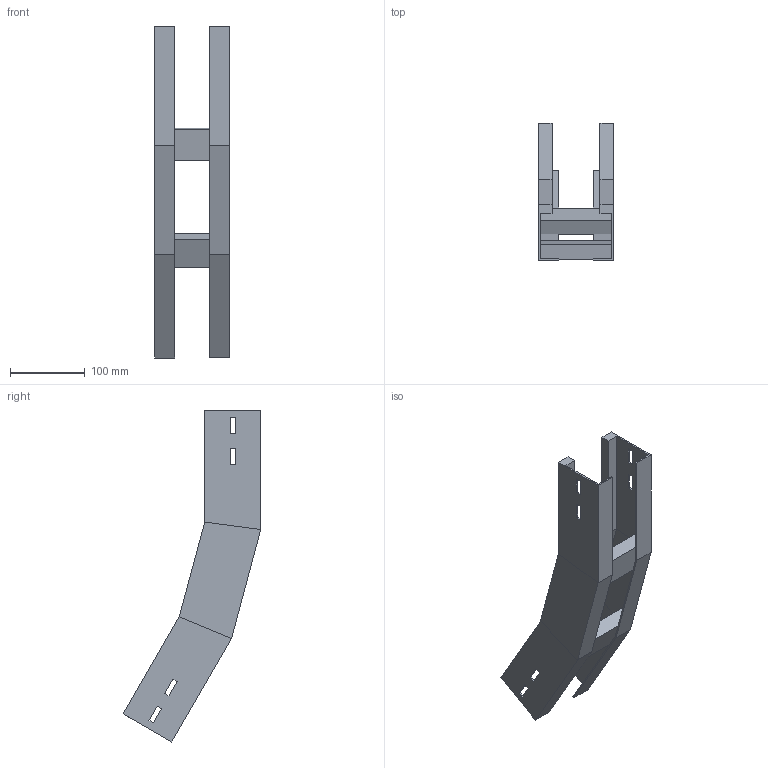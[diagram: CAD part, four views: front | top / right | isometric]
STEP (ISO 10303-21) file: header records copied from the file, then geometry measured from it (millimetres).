
FILE_DESCRIPTION (( 'STEP AP214' ), '1' );
FILE_NAME ('A2X32B5C100XX.step', '2025-03-20T10:01:54', ( '' ), ( '' ), 'SwSTEP 2.0', 'SolidWorks 2023', '' );
FILE_SCHEMA (( 'AUTOMOTIVE_DESIGN' ));
Length unit declared in the file: millimetre
Products named in the file (3): LONGH.SALITA_30°_H75_R500; TRAVERSINO_100; A2X32B5C100XX
Assembly tree (4 placements, depth 2):
  A2X32B5C100XX
    LONGH.SALITA_30°_H75_R500  x2
    TRAVERSINO_100  x2
Bounding box: 100 x 183.88 x 443.86 mm (x, y, z)
Volume: 501919.5 mm3; surface area: 240072.3 mm2
Topology: 4 solids, 4 shells, 96 faces, 232 edges, 144 vertices
Faces by surface type: plane 96
Entity records: 1472 total; most frequent: CARTESIAN_POINT 243, ORIENTED_EDGE 232, DIRECTION 226, EDGE_CURVE 116, VECTOR 116, LINE 116, VERTEX_POINT 72, EDGE_LOOP 56
